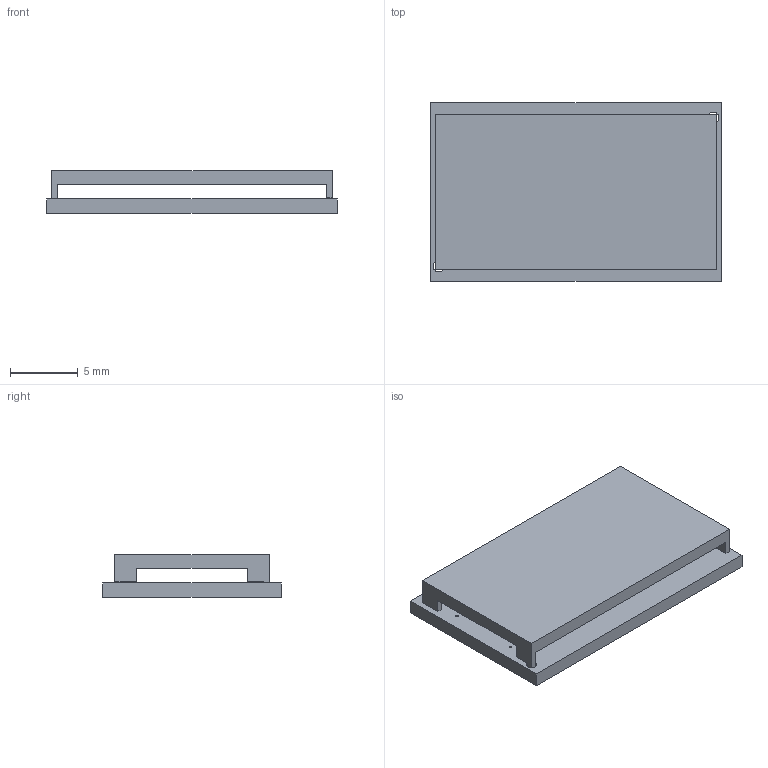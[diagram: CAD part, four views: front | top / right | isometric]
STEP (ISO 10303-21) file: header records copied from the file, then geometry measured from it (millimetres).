
FILE_DESCRIPTION(('Open CASCADE Model'),'2;1');
FILE_NAME('Open CASCADE Shape Model','2013-06-20T15:25:28',('Author'),( 'Open CASCADE'),'Open CASCADE STEP processor 6.2','Open CASCADE 6.2' ,'Unknown');
FILE_SCHEMA(('AUTOMOTIVE_DESIGN { 1 0 10303 214 1 1 1 1 }'));
Length unit declared in the file: millimetre
Products named in the file (4): PCB; Board; SH1; deRFmini_Long-RF-Shielding
Assembly tree (3 placements, depth 3):
  PCB
    Board
    SH1
      deRFmini_Long-RF-Shielding
Bounding box: 21.5 x 13.2 x 3.17 mm (x, y, z)
Volume: 408.9 mm3; surface area: 1237.7 mm2
Topology: 2 solids, 2 shells, 36 faces, 96 edges, 64 vertices
Faces by surface type: plane 32, cylinder 4
Full cylindrical faces by diameter (mm): 0.2 x2, 0.8 x2
Entity records: 2454 total; most frequent: CARTESIAN_POINT 392, DIRECTION 376, LINE 272, VECTOR 272, ORIENTED_EDGE 192, PCURVE 192, DEFINITIONAL_REPRESENTATION 192, EDGE_CURVE 96
